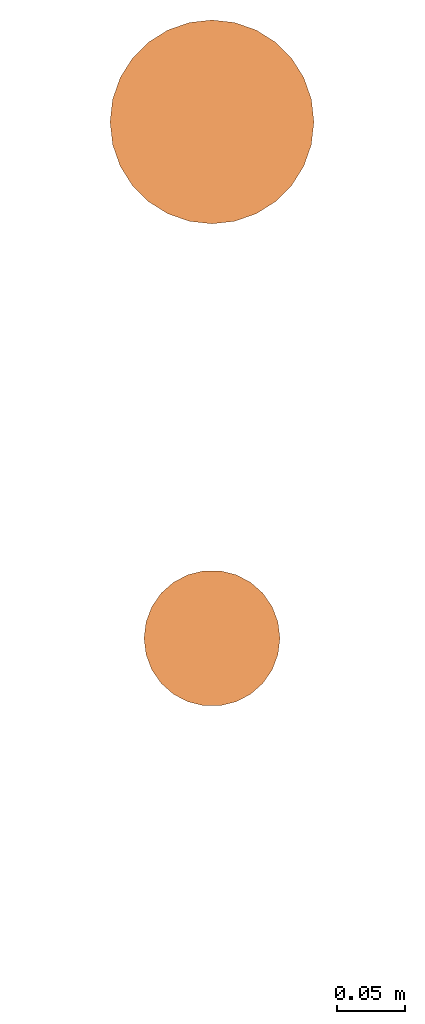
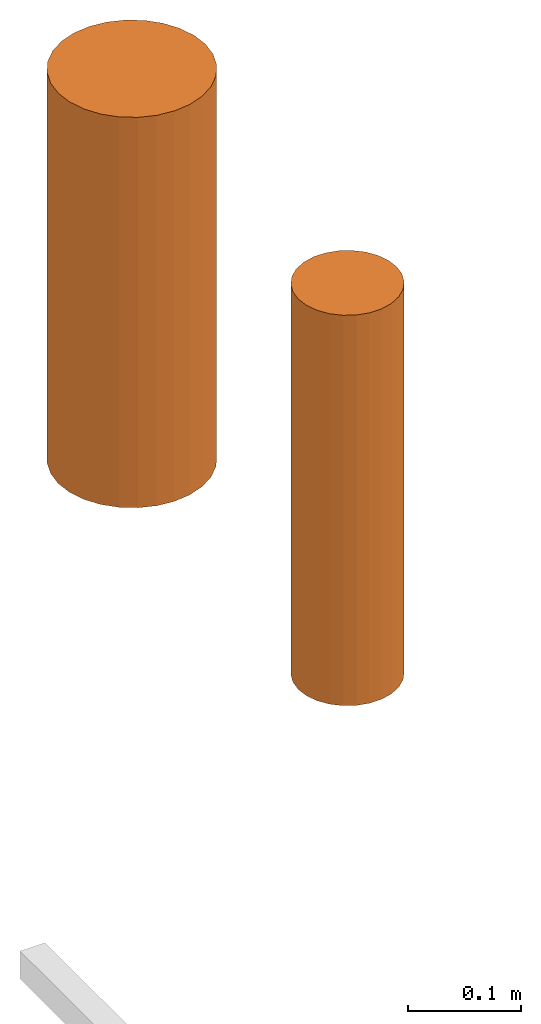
# One storey, part 5 of 5: 2 proxies.
"""IFC2X3 building model written with IfcOpenShell, lengths in millimetres."""

import ifcopenshell
import ifcopenshell.guid

model = None  # the IFC model being written
_history = None  # IfcOwnerHistory: only IFC2X3 demands one
_inside = {}  # id of a spatial element -> (the spatial element, [elements in it])
_under = {}  # id of a project, library or spatial element -> (it, [spatial elements below it])
_declared = {}  # id of a project -> (the project, [libraries it declares])
_typed = {}  # id of a type object -> (the type object, [elements of that type])
_made_of = {}  # id of a material, layer set ... -> (it, [elements and type objects made of it])


def new_model(schema):
    """Start an empty IFC model of exactly this schema.

    Asked for "IFC4X3", IfcOpenShell would pick the latest addendum, in which some entities
    have other attributes; the version numbers below select the first issue.
    IFC2X3 requires an IfcOwnerHistory on every rooted entity: one is made here for all.
    """
    global model, _history
    if schema == "IFC4X3":
        model = ifcopenshell.file(schema_version=(4, 3, 0, 0))
    else:
        model = ifcopenshell.file(schema=schema)
    _inside.clear()
    _under.clear()
    _declared.clear()
    _typed.clear()
    _made_of.clear()
    _history = None
    if model.schema == "IFC2X3":
        org = make("IfcOrganization", Name="unknown")
        user = make(
            "IfcPersonAndOrganization",
            ThePerson=make("IfcPerson", FamilyName="unknown"),
            TheOrganization=org,
        )
        app = make(
            "IfcApplication",
            ApplicationDeveloper=org,
            Version="unknown",
            ApplicationFullName="unknown",
            ApplicationIdentifier="unknown",
        )
        _history = make(
            "IfcOwnerHistory",
            OwningUser=user,
            OwningApplication=app,
            ChangeAction="ADDED",
            CreationDate=0,
        )
    return model


def make(cls, **values):
    """One entity of the class cls with the attributes given. An attribute that is None is left unset."""
    return model.create_entity(
        cls, **{name: value for name, value in values.items() if value is not None}
    )


def entity(cls, *values):
    """Any entity or typed value of the class cls, its attributes in the order of the schema. None: left unset."""
    e = model.create_entity(cls)
    for i, value in enumerate(values):
        if value is not None:
            e[i] = value
    return e


def rooted(cls, **values):
    """An entity with a GlobalId (a new one), such as an element, a storey or a relation."""
    return make(cls, GlobalId=ifcopenshell.guid.new(), OwnerHistory=_history, **values)


def si_unit(unit_type, name, prefix=None):
    """IfcSIUnit, for example si_unit("LENGTHUNIT", "METRE", prefix="MILLI")."""
    return make("IfcSIUnit", UnitType=unit_type, Prefix=prefix, Name=name)


def converted_unit(unit_type, name, factor, base, dimensions=None, offset=None):
    """IfcConversionBasedUnit, such as the inch: factor (a typed value) times the base unit."""
    return make(
        "IfcConversionBasedUnit"
        if offset is None
        else "IfcConversionBasedUnitWithOffset",
        ConversionOffset=offset,
        Dimensions=None
        if dimensions is None
        else entity("IfcDimensionalExponents", *dimensions),
        UnitType=unit_type,
        Name=name,
        ConversionFactor=make(
            "IfcMeasureWithUnit", ValueComponent=factor, UnitComponent=base
        ),
    )


def derived_unit(unit_type, elements):
    """IfcDerivedUnit: a product of units, each with its exponent."""
    return make(
        "IfcDerivedUnit",
        Elements=[
            make("IfcDerivedUnitElement", Unit=unit, Exponent=power)
            for unit, power in elements
        ],
        UnitType=unit_type,
    )


def assignment(units):
    """IfcUnitAssignment: the units of a project."""
    return None if units is None else make("IfcUnitAssignment", Units=units)


def point(xyz):
    """IfcCartesianPoint."""
    return None if xyz is None else make("IfcCartesianPoint", Coordinates=xyz)


def direction(xyz):
    """IfcDirection."""
    return None if xyz is None else make("IfcDirection", DirectionRatios=xyz)


def frame(location, z_axis=None, x_axis=None):
    """IfcAxis2Placement3D, a coordinate frame: its origin and axes. An axis left out is left unset."""
    return make(
        "IfcAxis2Placement3D",
        Location=point(location),
        Axis=direction(z_axis),
        RefDirection=direction(x_axis),
    )


def frame_2d(location, x_axis=None):
    """IfcAxis2Placement2D, a coordinate frame in the plane: its origin and x axis."""
    return make(
        "IfcAxis2Placement2D", Location=point(location), RefDirection=direction(x_axis)
    )


def origin_with_axes():
    """The frame at (0, 0, 0) with the z axis (0, 0, 1) and the x axis (1, 0, 0) written out."""
    return frame((0.0, 0.0, 0.0), z_axis=(0.0, 0.0, 1.0), x_axis=(1.0, 0.0, 0.0))


def origin_2d_with_axis():
    """The frame at (0, 0) in the plane with the x axis (1, 0) written out."""
    return frame_2d((0.0, 0.0), x_axis=(1.0, 0.0))


def place(relative_to, where):
    """IfcLocalPlacement: puts the frame where relative to a parent placement (None: the world)."""
    return make(
        "IfcLocalPlacement", PlacementRelTo=relative_to, RelativePlacement=where
    )


def context(
    kind, dimensions, precision=None, world=None, true_north=None, identifier=None
):
    """IfcGeometricRepresentationContext, for example the 3D "Model" context."""
    return make(
        "IfcGeometricRepresentationContext",
        ContextIdentifier=identifier,
        ContextType=kind,
        CoordinateSpaceDimension=dimensions,
        Precision=precision,
        WorldCoordinateSystem=world,
        TrueNorth=true_north,
    )


def subcontext(parent, identifier, kind, view, scale=None):
    """IfcGeometricRepresentationSubContext, for example "Body" below "Model"."""
    return make(
        "IfcGeometricRepresentationSubContext",
        ContextIdentifier=identifier,
        ContextType=kind,
        ParentContext=parent,
        TargetScale=scale,
        TargetView=view,
    )


def project(units=None, contexts=None):
    """IfcProject with its units and contexts."""
    return rooted(
        "IfcProject",
        Name="project",
        RepresentationContexts=contexts,
        UnitsInContext=assignment(units),
    )


def spatial(cls, under=None, at=None, **own):
    """A site, building, storey or space (cls), placed at a placement, below another one or the project."""
    s = rooted(cls, ObjectPlacement=at, **own)
    if under is not None:
        _under.setdefault(under.id(), (under, []))[1].append(s)
    return s


def profile(cls, at=None, kind="AREA", **sizes):
    """A parametric profile (cls). Its sizes go by their IFC names, for example OverallWidth=200.0."""
    return make(cls, ProfileType=kind, Position=at, **sizes)


def circle(**sizes):
    """IfcCircleProfileDef."""
    return profile("IfcCircleProfileDef", **sizes)


def extrude(swept, where, along, depth):
    """IfcExtrudedAreaSolid: the profile swept, set in the frame where, extruded along a direction by depth."""
    return make(
        "IfcExtrudedAreaSolid",
        SweptArea=swept,
        Position=where,
        ExtrudedDirection=direction(along),
        Depth=depth,
    )


def shape(context_of_items, identifier, shape_type, items):
    """IfcShapeRepresentation: the items that make up one representation, for example the "Body"."""
    return make(
        "IfcShapeRepresentation",
        ContextOfItems=context_of_items,
        RepresentationIdentifier=identifier,
        RepresentationType=shape_type,
        Items=items,
    )


def source(mapping_origin, context_of_items, identifier, shape_type, items):
    """IfcRepresentationMap: a shape defined once, which mapped items show again and again."""
    return make(
        "IfcRepresentationMap",
        MappingOrigin=mapping_origin,
        MappedRepresentation=shape(context_of_items, identifier, shape_type, items),
    )


def transform(
    local_origin,
    x_axis=None,
    y_axis=None,
    z_axis=None,
    scale=None,
    scale2=None,
    scale3=None,
    uniform=True,
):
    """IfcCartesianTransformationOperator3D, or its non-uniform kind. x_axis, y_axis, z_axis: its Axis1, 2, 3."""
    if uniform:
        return make(
            "IfcCartesianTransformationOperator3D",
            Axis1=direction(x_axis),
            Axis2=direction(y_axis),
            LocalOrigin=point(local_origin),
            Scale=scale,
            Axis3=direction(z_axis),
        )
    return make(
        "IfcCartesianTransformationOperator3DnonUniform",
        Axis1=direction(x_axis),
        Axis2=direction(y_axis),
        LocalOrigin=point(local_origin),
        Scale=scale,
        Axis3=direction(z_axis),
        Scale2=scale2,
        Scale3=scale3,
    )


def mapped(mapping_source, mapping_target):
    """IfcMappedItem: shows the shape of a source again, moved by a transform."""
    return make(
        "IfcMappedItem", MappingSource=mapping_source, MappingTarget=mapping_target
    )


def made_of(thing, what):
    """Note that an element or type object is made of a material, layer set ...; save() writes the relation."""
    if what is not None:
        _made_of.setdefault(what.id(), (what, []))[1].append(thing)
    return thing


def element(
    cls,
    number,
    at=None,
    inside=None,
    cuts=None,
    type_object=None,
    material=None,
    context=None,
    identifier="Body",
    shape_type=None,
    held_by="IfcProductDefinitionShape",
    body=None,
    shapes=None,
    **own,
):
    """One element of the class cls, such as IfcWall. Its Tag is "e" and its number.

    at: its placement. inside: the storey or other place that contains it. cuts: it is an
    opening in that element (IfcRelVoidsElement). A single representation is given by context,
    identifier, shape_type and body (its items); several are given by shapes. held_by: the class
    of the entity that holds the representations. save() writes the other relations.
    """
    e = rooted(cls, Tag="e%d" % number, ObjectPlacement=at, **own)
    if body is not None:
        shapes = [shape(context, identifier, shape_type, body)]
    if shapes is not None:
        e.Representation = make(held_by, Representations=shapes)
    if inside is not None:
        _inside.setdefault(inside.id(), (inside, []))[1].append(e)
    if cuts is not None:
        rooted(
            "IfcRelVoidsElement", RelatingBuildingElement=cuts, RelatedOpeningElement=e
        )
    if type_object is not None:
        _typed.setdefault(type_object.id(), (type_object, []))[1].append(e)
    return made_of(e, material)


def aggregate(whole, parts):
    """IfcRelAggregates: a whole, such as a stair, and the parts it consists of."""
    return rooted("IfcRelAggregates", RelatingObject=whole, RelatedObjects=parts)


def save(model, path):
    """Write the relations noted so far, then the file.

    IfcRelAggregates (storeys below a building ...), IfcRelContainedInSpatialStructure (elements
    in a storey), IfcRelDefinesByType, IfcRelAssociatesMaterial and IfcRelDeclares: one each for
    every whole, place, type object, material and project.
    """
    for whole, parts in _under.values():
        aggregate(whole, parts)
    for where, things in _inside.values():
        rooted(
            "IfcRelContainedInSpatialStructure",
            RelatedElements=things,
            RelatingStructure=where,
        )
    for kind, things in _typed.values():
        rooted("IfcRelDefinesByType", RelatedObjects=things, RelatingType=kind)
    for what, things in _made_of.values():
        rooted("IfcRelAssociatesMaterial", RelatedObjects=things, RelatingMaterial=what)
    for by, libraries in _declared.values():
        rooted("IfcRelDeclares", RelatingContext=by, RelatedDefinitions=libraries)
    model.write(path)


model = new_model("IFC2X3")

# Units and contexts
model_context = context("Model", 3, precision=0.01, world=frame((0.0, 4.29681676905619e-09, 0.0)), true_north=direction((4.01073788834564e-13, 1.0)))
plan_context = context("Plan", 3, precision=0.01, world=frame((0.0, 4.29681676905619e-09, 0.0)), true_north=direction((4.01073788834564e-13, 1.0)))
body_context = subcontext(model_context, "Body", "Model", "MODEL_VIEW")
ifc_project = project(units=[converted_unit("PLANEANGLEUNIT", "DEGREE", entity("IfcPositiveLengthMeasure", 0.0174532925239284), si_unit("PLANEANGLEUNIT", "RADIAN"), dimensions=[0, 0, 0, 0, 0, 0, 0]), si_unit("AREAUNIT", "SQUARE_METRE"), si_unit("LENGTHUNIT", "METRE", prefix="MILLI"), si_unit("MASSUNIT", "GRAM", prefix="KILO"), si_unit("POWERUNIT", "WATT"), si_unit("PRESSUREUNIT", "PASCAL"), si_unit("FORCEUNIT", "NEWTON", prefix="KILO"), si_unit("ELECTRICCURRENTUNIT", "AMPERE"), si_unit("THERMODYNAMICTEMPERATUREUNIT", "DEGREE_CELSIUS"), si_unit("TIMEUNIT", "SECOND"), si_unit("VOLUMEUNIT", "CUBIC_METRE"), derived_unit("LINEARVELOCITYUNIT", [(si_unit("LENGTHUNIT", "METRE"), 1), (si_unit("TIMEUNIT", "SECOND"), -1)]), derived_unit("VOLUMETRICFLOWRATEUNIT", [(si_unit("VOLUMEUNIT", "CUBIC_METRE"), 1), (si_unit("TIMEUNIT", "SECOND"), -1)]), derived_unit("THERMALTRANSMITTANCEUNIT", [(si_unit("POWERUNIT", "WATT"), 1), (si_unit("THERMODYNAMICTEMPERATUREUNIT", "KELVIN"), -1), (si_unit("AREAUNIT", "SQUARE_METRE"), -1)])], contexts=[model_context, plan_context])

# Site, building, storey
site_placement = place(None, frame((0.0, -4.29681676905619e-09, 0.0), z_axis=(0.0, 0.0, 1.0), x_axis=(1.0, 0.0, 0.0)))
site = spatial("IfcSite", under=ifc_project, at=site_placement, Name="ENGM", CompositionType="ELEMENT")
building_placement = place(site_placement, frame((0.0, 4.29681676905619e-09, 0.0), z_axis=(0.0, 0.0, 1.0), x_axis=(1.0, 0.0, 0.0)))
building = spatial("IfcBuilding", under=site, at=building_placement, Name="TS", CompositionType="ELEMENT")
storey_placement = place(building_placement, frame((0.0, 0.0, 200300.0), z_axis=(0.0, 0.0, 1.0), x_axis=(1.0, 0.0, 0.0)))
storey = spatial("IfcBuildingStorey", under=building, at=storey_placement, Name="Nivå C", CompositionType="ELEMENT", Elevation=200300.0)

# Proxies
shared_shape_1 = source(origin_with_axes(), body_context, "Body", "SweptSolid", [
    extrude(circle(Radius=50.0, at=origin_2d_with_axis()), frame((0.0, 0.0, 0.0), z_axis=(1.0, 0.0, 0.0), x_axis=(0.0, 1.0, 0.0)), (0.0, 0.0, 1.0), 420.0),
])
proxy_1_placement = place(storey_placement, frame((518325.0, 420105.0, 3090.0), z_axis=(0.0, 1.0, 0.0), x_axis=(0.0, 0.0, 1.0)))
element("IfcBuildingElementProxy", 1, at=proxy_1_placement, inside=storey, Name="MagiCAD_ProvisionForVoid", ObjectType="ProvisionForVoid", CompositionType="ELEMENT", context=body_context, shape_type="MappedRepresentation", body=[
    mapped(shared_shape_1, transform((0.0, 0.0, 0.0), scale=1.0)),
])
shared_shape_2 = source(origin_with_axes(), body_context, "Body", "SweptSolid", [
    extrude(circle(Radius=75.0, at=origin_2d_with_axis()), frame((0.0, 0.0, 0.0), z_axis=(1.0, 0.0, 0.0), x_axis=(0.0, 1.0, 0.0)), (0.0, 0.0, 1.0), 420.0),
])
proxy_2_placement = place(storey_placement, frame((518325.0, 420485.0, 3090.0), z_axis=(0.0, 1.0, 0.0), x_axis=(0.0, 0.0, 1.0)))
element("IfcBuildingElementProxy", 2, at=proxy_2_placement, inside=storey, Name="MagiCAD_ProvisionForVoid", ObjectType="ProvisionForVoid", CompositionType="ELEMENT", context=body_context, shape_type="MappedRepresentation", body=[
    mapped(shared_shape_2, transform((0.0, 0.0, 0.0), scale=1.0)),
])

save(model, "model.ifc")
